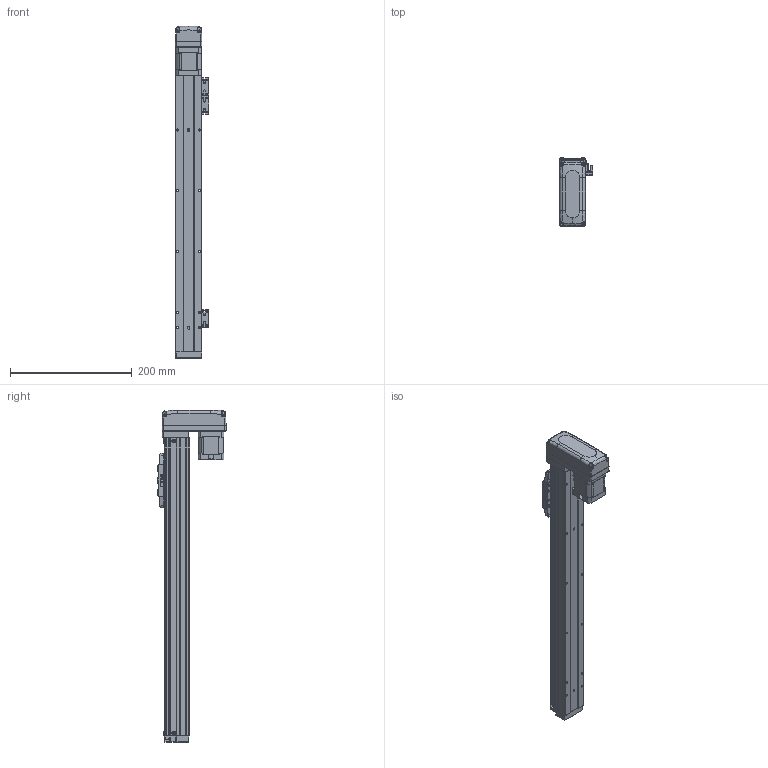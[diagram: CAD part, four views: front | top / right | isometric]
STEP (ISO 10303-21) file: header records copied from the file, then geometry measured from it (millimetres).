
FILE_DESCRIPTION (( 'STEP AP203' ), '1' );
FILE_NAME ('GTH4-350-BM-B42-C4.step', '2023-02-14T00:21:10', ( '微软用户' ), ( '微软中国' ), 'SwSTEP 2.0', 'SolidWorks 2020', '' );
FILE_SCHEMA (( 'CONFIG_CONTROL_DESIGN' ));
Length unit declared in the file: millimetre
Products named in the file (19): BTH50-028; BTH40-022; 42CM06; BTH50-023; GBT 70.1-M2.5×6; GTH4-350-BM-B42-C4; BTH40-001-50_BTH40-001-350; BTH50-024; BTH40-004; BTH40-003; BTH40-013; BTH40-006; GBT 70.3-M3℅6; BTH-M3X5X6; GBT 70.1-M3℅6; BTH40-027-1; GBT70.1-2000 M3×16; GBT96.1-2002 3×0.8; BTH50-026
Assembly tree (47 placements, depth 2):
  GTH4-350-BM-B42-C4
    BTH40-001-50_BTH40-001-350
    BTH40-003
    BTH40-006
    BTH-M3X5X6  x8
    GBT70.1-2000 M3×16  x4
    BTH50-028  x2
    BTH50-023  x3
    BTH50-024  x3
    GBT 70.1-M3℅6  x6
    GBT96.1-2002 3×0.8  x6
    BTH40-022
    GBT 70.1-M2.5×6  x2
    BTH40-004
    BTH40-013
    GBT 70.3-M3℅6  x4
    BTH40-027-1
    BTH50-026
    42CM06
Bounding box: 55.2 x 112 x 546 mm (x, y, z)
Volume: 1003517.6 mm3; surface area: 208683 mm2
Topology: 56 solids, 56 shells, 3335 faces, 7772 edges, 4646 vertices
Faces by surface type: cone 1508, plane 1076, cylinder 573, torus 124, bspline 42, sphere 12
Entity records: 77890 total; most frequent: CARTESIAN_POINT 14041, DIRECTION 13845, ORIENTED_EDGE 12190, EDGE_CURVE 6095, AXIS2_PLACEMENT_3D 5313, VERTEX_POINT 3633, LINE 3219, VECTOR 3219
